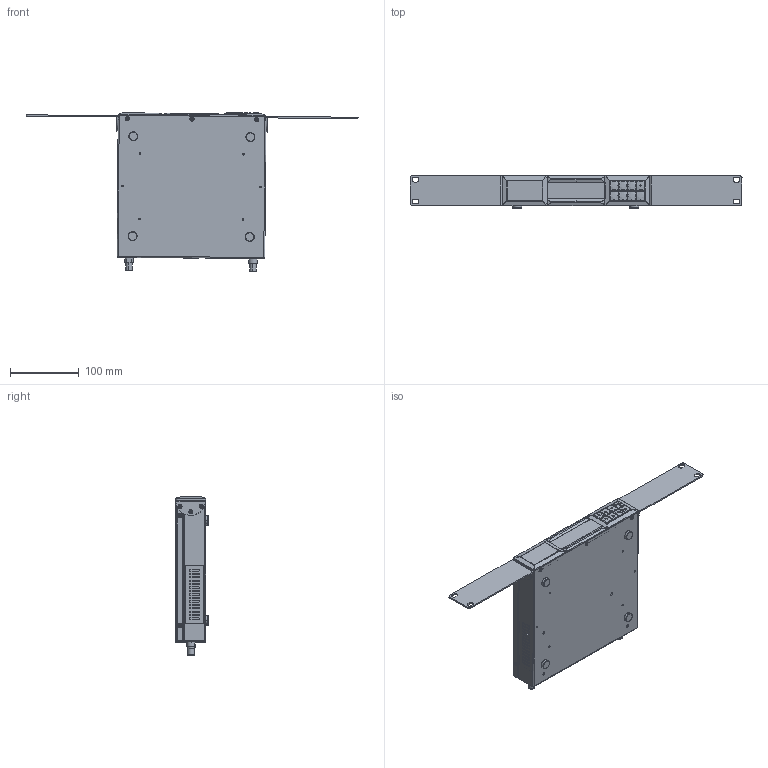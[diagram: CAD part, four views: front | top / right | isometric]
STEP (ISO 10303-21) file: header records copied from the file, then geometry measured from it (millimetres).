
FILE_DESCRIPTION(/* description */ (''),/* implementation_level */ '2;1');
FILE_NAME(/* name */ 'T-591U~2',/* time_stamp */ '2024-10-11T17:59:00+08:00',/* author */ (''),/* organization */ (''),/* preprocessor_version */ 'ST-DEVELOPER v16.5',/* originating_system */ '',/* authorisation */ '');
FILE_SCHEMA (('CONFIG_CONTROL_DESIGN'));
Products named in the file (1): Document
Bounding box: 482.39 x 47.35 x 230.27 mm (x, y, z)
Volume: 238612.5 mm3; surface area: 378882.6 mm2
Topology: 35 solids, 35 shells, 4750 faces, 13322 edges, 8725 vertices
Faces by surface type: plane 3210, bspline 771, cylinder 769
Entity records: 220001 total; most frequent: CARTESIAN_POINT 131510, ORIENTED_EDGE 26640, EDGE_CURVE 13320, B_SPLINE_CURVE_WITH_KNOTS 11551, VERTEX_POINT 8725, EDGE_LOOP 5269, ADVANCED_FACE 4750, FACE_OUTER_BOUND 4750
